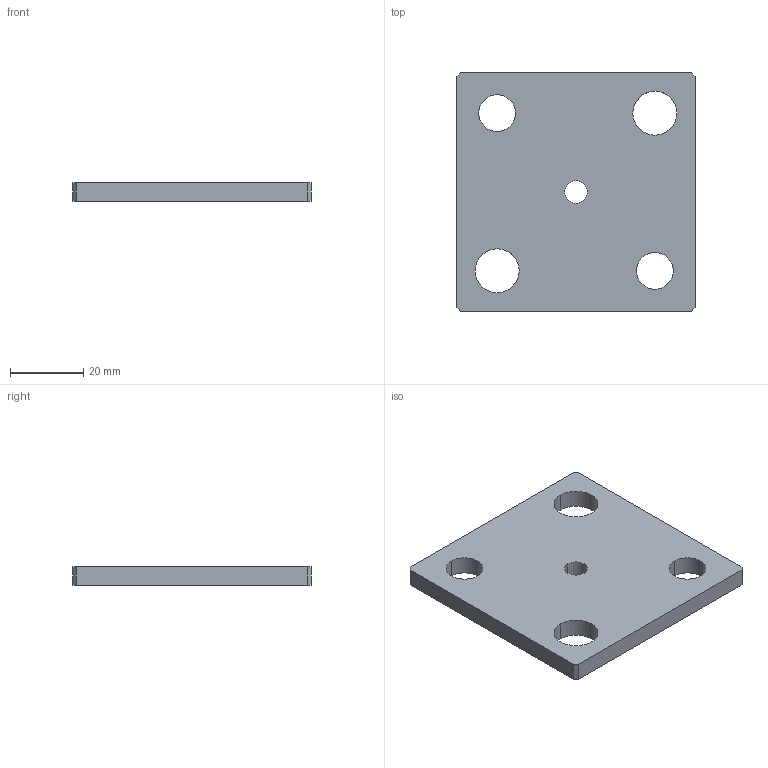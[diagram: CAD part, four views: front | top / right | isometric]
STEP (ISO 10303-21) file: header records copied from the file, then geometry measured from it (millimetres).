
FILE_DESCRIPTION(/* description */ (''),/* implementation_level */ '2;1');
FILE_NAME(/* name */ '3d_mpsp32_04601_r00.stp',/* time_stamp */ '2011-01-10T14:13:29+09:00',/* author */ ('MISUMI'),/* organization */ (''),/* preprocessor_version */ 'ST-DEVELOPER v11',/* originating_system */ 'UGS - NX 5.0',/* authorisation */ '');
FILE_SCHEMA (('CONFIG_CONTROL_DESIGN'));
Length unit declared in the file: millimetre
Products named in the file (1): 3d_mpsp32_04601_r00
Bounding box: 65 x 65 x 5 mm (x, y, z)
Volume: 19047.7 mm3; surface area: 9695.9 mm2
Topology: 1 solids, 1 shells, 20 faces, 54 edges, 36 vertices
Faces by surface type: plane 10, cylinder 10
Entity records: 744 total; most frequent: DIRECTION 116, CARTESIAN_POINT 111, ORIENTED_EDGE 108, EDGE_CURVE 54, AXIS2_PLACEMENT_3D 41, VERTEX_POINT 36, LINE 34, VECTOR 34
